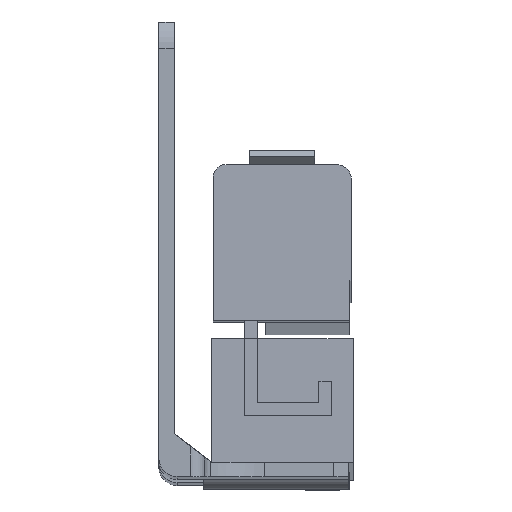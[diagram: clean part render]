
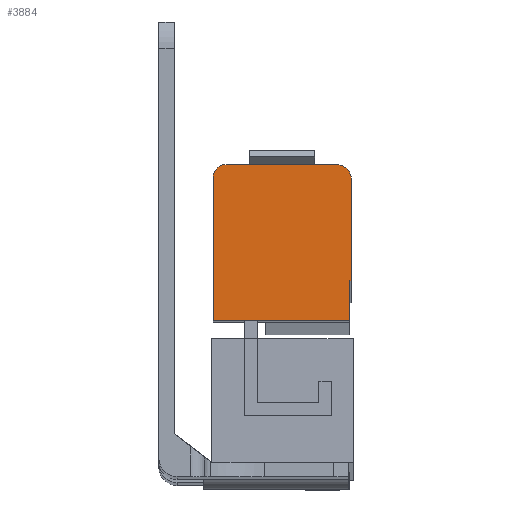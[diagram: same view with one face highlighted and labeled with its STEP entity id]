
A CAD part, front view. The second image highlights one B-rep face of the part: STEP entity #3884.
In plain terms, the highlighted planar face has unit normal (0, -1, 0.005).
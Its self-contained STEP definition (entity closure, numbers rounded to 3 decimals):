
#477 = EDGE_CURVE ( 'NONE', #4260, #4304, #1158, .T. ) ;
#479 = EDGE_CURVE ( 'NONE', #4273, #4241, #1162, .T. ) ;
#481 = EDGE_CURVE ( 'NONE', #4220, #4217, #1166, .T. ) ;
#484 = EDGE_CURVE ( 'NONE', #4225, #4273, #1172, .T. ) ;
#497 = EDGE_CURVE ( 'NONE', #4304, #4207, #1198, .T. ) ;
#503 = EDGE_CURVE ( 'NONE', #4217, #4225, #1211, .T. ) ;
#508 = EDGE_CURVE ( 'NONE', #4207, #4220, #1219, .T. ) ;
#513 = EDGE_CURVE ( 'NONE', #4241, #4260, #1227, .T. ) ;
#628 = AXIS2_PLACEMENT_3D ( 'NONE', #1706, #1707, #1708 ) ;
#630 = AXIS2_PLACEMENT_3D ( 'NONE', #1718, #1719, #1720 ) ;
#1158 = LINE ( 'NONE', #1654, #1159 ) ;
#1159 = VECTOR ( 'NONE', #1655, 1000. ) ;
#1162 = LINE ( 'NONE', #1658, #1163 ) ;
#1163 = VECTOR ( 'NONE', #1659, 1000. ) ;
#1166 = LINE ( 'NONE', #1662, #1167 ) ;
#1167 = VECTOR ( 'NONE', #1663, 1000. ) ;
#1172 = LINE ( 'NONE', #1668, #1173 ) ;
#1173 = VECTOR ( 'NONE', #1669, 1000. ) ;
#1198 = LINE ( 'NONE', #1694, #1199 ) ;
#1199 = VECTOR ( 'NONE', #1695, 1000. ) ;
#1211 = CIRCLE ( 'NONE', #628, 1.75 ) ;
#1219 = CIRCLE ( 'NONE', #630, 2.05 ) ;
#1227 = LINE ( 'NONE', #1729, #1228 ) ;
#1228 = VECTOR ( 'NONE', #1730, 1000. ) ;
#1317 = FACE_OUTER_BOUND ( 'NONE', #3546, .T. ) ;
#1654 = CARTESIAN_POINT ( 'NONE',  ( 7.5, -22.258, -20.675 ) ) ;
#1655 = DIRECTION ( 'NONE',  ( 1., 0., 0. ) ) ;
#1658 = CARTESIAN_POINT ( 'NONE',  ( 26.25, -22.287, -26.175 ) ) ;
#1659 = DIRECTION ( 'NONE',  ( 1., 0., 0. ) ) ;
#1662 = CARTESIAN_POINT ( 'NONE',  ( 9.25, -22.174, -4.675 ) ) ;
#1663 = DIRECTION ( 'NONE',  ( -1., 0., 0. ) ) ;
#1668 = CARTESIAN_POINT ( 'NONE',  ( 7.5, -22.183, -6.425 ) ) ;
#1669 = DIRECTION ( 'NONE',  ( 0., -0.005, -1. ) ) ;
#1694 = CARTESIAN_POINT ( 'NONE',  ( 26.5, -22.185, -6.725 ) ) ;
#1695 = DIRECTION ( 'NONE',  ( 0., 0.005, 1. ) ) ;
#1706 = CARTESIAN_POINT ( 'NONE',  ( 9.25, -22.183, -6.425 ) ) ;
#1707 = DIRECTION ( 'NONE',  ( 0., -1., 0.005 ) ) ;
#1708 = DIRECTION ( 'NONE',  ( 0., -0.005, -1. ) ) ;
#1718 = CARTESIAN_POINT ( 'NONE',  ( 24.45, -22.185, -6.725 ) ) ;
#1719 = DIRECTION ( 'NONE',  ( 0., -1., 0.005 ) ) ;
#1720 = DIRECTION ( 'NONE',  ( 0., 0.005, 1. ) ) ;
#1729 = CARTESIAN_POINT ( 'NONE',  ( 26.25, -22.287, -26.175 ) ) ;
#1730 = DIRECTION ( 'NONE',  ( 0., 0.005, 1. ) ) ;
#1952 = PLANE ( 'NONE',  #2611 ) ;
#1953 = CARTESIAN_POINT ( 'NONE',  ( 9.25, -22.183, -6.425 ) ) ;
#1954 = DIRECTION ( 'NONE',  ( 0., -1., 0.005 ) ) ;
#1955 = DIRECTION ( 'NONE',  ( 0., -0.005, -1. ) ) ;
#2425 = CARTESIAN_POINT ( 'NONE',  ( 26.5, -22.185, -6.725 ) ) ;
#2435 = CARTESIAN_POINT ( 'NONE',  ( 9.25, -22.174, -4.675 ) ) ;
#2438 = CARTESIAN_POINT ( 'NONE',  ( 24.45, -22.174, -4.675 ) ) ;
#2443 = CARTESIAN_POINT ( 'NONE',  ( 7.5, -22.183, -6.425 ) ) ;
#2459 = CARTESIAN_POINT ( 'NONE',  ( 26.25, -22.287, -26.175 ) ) ;
#2478 = CARTESIAN_POINT ( 'NONE',  ( 26.25, -22.258, -20.675 ) ) ;
#2491 = CARTESIAN_POINT ( 'NONE',  ( 7.5, -22.287, -26.175 ) ) ;
#2522 = CARTESIAN_POINT ( 'NONE',  ( 26.5, -22.258, -20.675 ) ) ;
#2611 = AXIS2_PLACEMENT_3D ( 'NONE', #1953, #1954, #1955 ) ;
#3040 = ORIENTED_EDGE ( 'NONE', *, *, #497, .T. ) ;
#3041 = ORIENTED_EDGE ( 'NONE', *, *, #508, .T. ) ;
#3042 = ORIENTED_EDGE ( 'NONE', *, *, #481, .T. ) ;
#3043 = ORIENTED_EDGE ( 'NONE', *, *, #503, .T. ) ;
#3044 = ORIENTED_EDGE ( 'NONE', *, *, #484, .T. ) ;
#3045 = ORIENTED_EDGE ( 'NONE', *, *, #479, .T. ) ;
#3046 = ORIENTED_EDGE ( 'NONE', *, *, #513, .T. ) ;
#3047 = ORIENTED_EDGE ( 'NONE', *, *, #477, .T. ) ;
#3546 = EDGE_LOOP ( 'NONE', ( #3040, #3041, #3042, #3043, #3044, #3045, #3046, #3047 ) ) ;
#3884 = ADVANCED_FACE ( 'NONE', ( #1317 ), #1952, .T. ) ;
#4207 = VERTEX_POINT ( 'NONE', #2425 ) ;
#4217 = VERTEX_POINT ( 'NONE', #2435 ) ;
#4220 = VERTEX_POINT ( 'NONE', #2438 ) ;
#4225 = VERTEX_POINT ( 'NONE', #2443 ) ;
#4241 = VERTEX_POINT ( 'NONE', #2459 ) ;
#4260 = VERTEX_POINT ( 'NONE', #2478 ) ;
#4273 = VERTEX_POINT ( 'NONE', #2491 ) ;
#4304 = VERTEX_POINT ( 'NONE', #2522 ) ;
